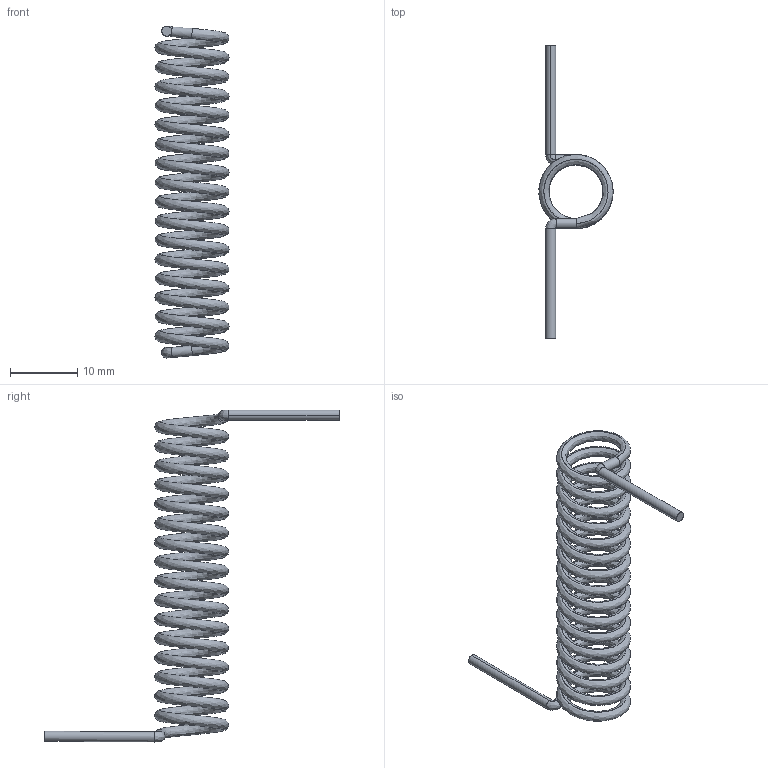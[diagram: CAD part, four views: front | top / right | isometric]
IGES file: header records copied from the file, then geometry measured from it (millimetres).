
Start section: SolidWorks IGES file using analytic representation for surfaces
Global section: file name: C:\Users\cbrechard\Desktop\cc 1474 E\1474.231.00.IGS; native system: SolidWorks 2008; preprocessor: SolidWorks 2008; author: cbrechard; date: 120124.125830; units: millimetre
Bounding box: 10.99 x 43.6 x 49.21 mm (x, y, z)
Surface area: 2527.5 mm2 (no closed solid volume)
Topology: 0 solids, 0 shells, 17 faces, 102 edges, 100 vertices
Faces by surface type: bspline 9, revolution 8
